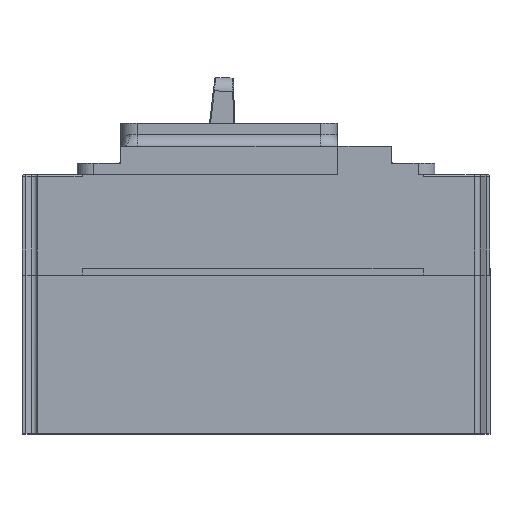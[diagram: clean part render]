
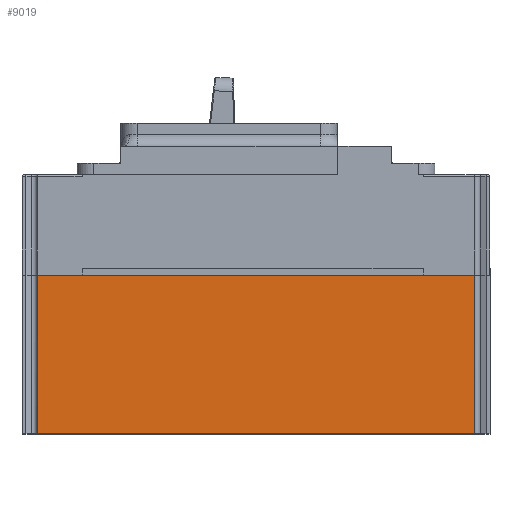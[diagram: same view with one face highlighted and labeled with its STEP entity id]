
A CAD part, top view. The second image highlights one B-rep face of the part: STEP entity #9019.
In plain terms, the highlighted planar face has unit normal (0, 0, 1).
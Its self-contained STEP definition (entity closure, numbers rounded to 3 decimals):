
#453=DIRECTION('',(0.,1.,0.));
#454=VECTOR('',#453,2.);
#455=CARTESIAN_POINT('',(55.258,25.847,82.5));
#456=LINE('',#455,#454);
#990=DIRECTION('',(-1.,0.,0.));
#991=VECTOR('',#990,102.);
#992=CARTESIAN_POINT('',(55.258,27.847,82.5));
#993=LINE('',#992,#991);
#1845=DIRECTION('',(-1.,0.,0.));
#1846=VECTOR('',#1845,13.45);
#1847=CARTESIAN_POINT('',(-46.742,25.847,82.5));
#1848=LINE('',#1847,#1846);
#1895=DIRECTION('',(0.,1.,0.));
#1896=VECTOR('',#1895,2.);
#1897=CARTESIAN_POINT('',(-46.742,25.847,82.5));
#1898=LINE('',#1897,#1896);
#1899=DIRECTION('',(1.,0.,0.));
#1900=VECTOR('',#1899,15.45);
#1901=CARTESIAN_POINT('',(55.258,25.847,82.5));
#1902=LINE('',#1901,#1900);
#1903=DIRECTION('',(0.,-1.,0.));
#1904=VECTOR('',#1903,47.5);
#1905=CARTESIAN_POINT('',(70.708,25.847,82.5));
#1906=LINE('',#1905,#1904);
#1907=DIRECTION('',(0.,1.,0.));
#1908=VECTOR('',#1907,47.5);
#1909=CARTESIAN_POINT('',(-60.192,-21.653,82.5));
#1910=LINE('',#1909,#1908);
#2068=DIRECTION('',(1.,0.,0.));
#2069=VECTOR('',#2068,130.9);
#2070=CARTESIAN_POINT('',(-60.192,-21.653,82.5));
#2071=LINE('',#2070,#2069);
#4983=CARTESIAN_POINT('',(55.258,25.847,82.5));
#4984=VERTEX_POINT('',#4983);
#4985=CARTESIAN_POINT('',(55.258,27.847,82.5));
#4986=VERTEX_POINT('',#4985);
#5167=CARTESIAN_POINT('',(-46.742,27.847,82.5));
#5168=VERTEX_POINT('',#5167);
#5239=CARTESIAN_POINT('',(-46.742,25.847,82.5));
#5241=VERTEX_POINT('',#5239);
#5283=CARTESIAN_POINT('',(70.708,25.847,82.5));
#5284=VERTEX_POINT('',#5283);
#5285=CARTESIAN_POINT('',(-60.192,25.847,82.5));
#5286=VERTEX_POINT('',#5285);
#5437=CARTESIAN_POINT('',(-60.192,-21.653,82.5));
#5439=VERTEX_POINT('',#5437);
#5440=CARTESIAN_POINT('',(70.708,-21.653,82.5));
#5441=VERTEX_POINT('',#5440);
#9001=CARTESIAN_POINT('',(-70.742,38.847,82.5));
#9002=DIRECTION('',(0.,0.,-1.));
#9003=DIRECTION('',(-1.,0.,0.));
#9004=AXIS2_PLACEMENT_3D('',#9001,#9002,#9003);
#9005=PLANE('',#9004);
#9006=ORIENTED_EDGE('',*,*,#8976,.F.);
#9007=ORIENTED_EDGE('',*,*,#7188,.T.);
#9008=ORIENTED_EDGE('',*,*,#7794,.F.);
#9009=ORIENTED_EDGE('',*,*,#7252,.F.);
#9010=ORIENTED_EDGE('',*,*,#7615,.T.);
#9012=ORIENTED_EDGE('',*,*,#9011,.T.);
#9014=ORIENTED_EDGE('',*,*,#9013,.F.);
#9016=ORIENTED_EDGE('',*,*,#9015,.T.);
#9017=EDGE_LOOP('',(#9006,#9007,#9008,#9009,#9010,#9012,#9014,#9016));
#9018=FACE_OUTER_BOUND('',#9017,.F.);
#9019=ADVANCED_FACE('',(#9018),#9005,.F.);
#7188=EDGE_CURVE('',#5241,#5168,#1898,.T.);
#7252=EDGE_CURVE('',#4984,#4986,#456,.T.);
#7615=EDGE_CURVE('',#4984,#5284,#1902,.T.);
#7794=EDGE_CURVE('',#4986,#5168,#993,.T.);
#8976=EDGE_CURVE('',#5241,#5286,#1848,.T.);
#9011=EDGE_CURVE('',#5284,#5441,#1906,.T.);
#9013=EDGE_CURVE('',#5439,#5441,#2071,.T.);
#9015=EDGE_CURVE('',#5439,#5286,#1910,.T.);
